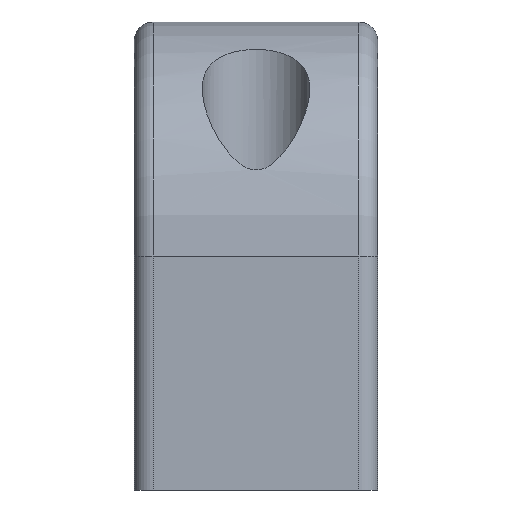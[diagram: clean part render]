
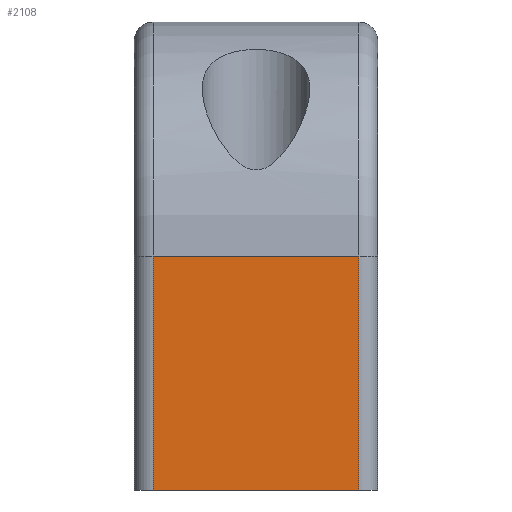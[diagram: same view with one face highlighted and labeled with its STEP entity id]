
A CAD part, front view. The second image highlights one B-rep face of the part: STEP entity #2108.
In plain terms, the highlighted planar face has unit normal (0, -1, 0).
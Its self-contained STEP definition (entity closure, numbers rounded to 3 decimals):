
#180 = EDGE_LOOP ( 'NONE', ( #3206, #3207, #3208, #2839 ) ) ;
#363 = CARTESIAN_POINT ( 'NONE',  ( 11., -66.5, -50. ) ) ;
#367 = CARTESIAN_POINT ( 'NONE',  ( 11., -66.5, -25. ) ) ;
#376 = CARTESIAN_POINT ( 'NONE',  ( -11., -66.5, -50. ) ) ;
#388 = PLANE ( 'NONE',  #1161 ) ;
#390 = DIRECTION ( 'NONE',  ( 0., 1., 0. ) ) ;
#391 = DIRECTION ( 'NONE',  ( 0., 0., -1. ) ) ;
#425 = CARTESIAN_POINT ( 'NONE',  ( 13., -66.5, -25. ) ) ;
#715 = CARTESIAN_POINT ( 'NONE',  ( -11., -66.5, -25. ) ) ;
#1051 = FACE_OUTER_BOUND ( 'NONE', #180, .T. ) ;
#1161 = AXIS2_PLACEMENT_3D ( 'NONE', #425, #390, #391 ) ;
#1677 = LINE ( 'NONE', #3430, #1721 ) ;
#1710 = LINE ( 'NONE', #3407, #1712 ) ;
#1712 = VECTOR ( 'NONE', #3408, 1000. ) ;
#1717 = LINE ( 'NONE', #3424, #1719 ) ;
#1719 = VECTOR ( 'NONE', #3425, 1000. ) ;
#1720 = LINE ( 'NONE', #3436, #1723 ) ;
#1721 = VECTOR ( 'NONE', #3435, 1000. ) ;
#1723 = VECTOR ( 'NONE', #3437, 1000. ) ;
#2108 = ADVANCED_FACE ( 'NONE', ( #1051 ), #388, .F. ) ;
#2242 = VERTEX_POINT ( 'NONE', #715 ) ;
#2839 = ORIENTED_EDGE ( 'NONE', *, *, #4013, .F. ) ;
#3206 = ORIENTED_EDGE ( 'NONE', *, *, #4011, .T. ) ;
#3207 = ORIENTED_EDGE ( 'NONE', *, *, #4012, .F. ) ;
#3208 = ORIENTED_EDGE ( 'NONE', *, *, #4005, .F. ) ;
#3407 = CARTESIAN_POINT ( 'NONE',  ( 13., -66.5, -50. ) ) ;
#3408 = DIRECTION ( 'NONE',  ( -1., 0., 0. ) ) ;
#3424 = CARTESIAN_POINT ( 'NONE',  ( 13., -66.5, -25. ) ) ;
#3425 = DIRECTION ( 'NONE',  ( -1., 0., 0. ) ) ;
#3430 = CARTESIAN_POINT ( 'NONE',  ( -11., -66.5, -25. ) ) ;
#3435 = DIRECTION ( 'NONE',  ( 0., 0., 1. ) ) ;
#3436 = CARTESIAN_POINT ( 'NONE',  ( 11., -66.5, -25. ) ) ;
#3437 = DIRECTION ( 'NONE',  ( 0., 0., -1. ) ) ;
#3884 = VERTEX_POINT ( 'NONE', #363 ) ;
#3887 = VERTEX_POINT ( 'NONE', #367 ) ;
#3906 = VERTEX_POINT ( 'NONE', #376 ) ;
#4005 = EDGE_CURVE ( 'NONE', #3884, #3906, #1710, .T. ) ;
#4011 = EDGE_CURVE ( 'NONE', #3887, #2242, #1717, .T. ) ;
#4012 = EDGE_CURVE ( 'NONE', #3906, #2242, #1677, .T. ) ;
#4013 = EDGE_CURVE ( 'NONE', #3887, #3884, #1720, .T. ) ;
